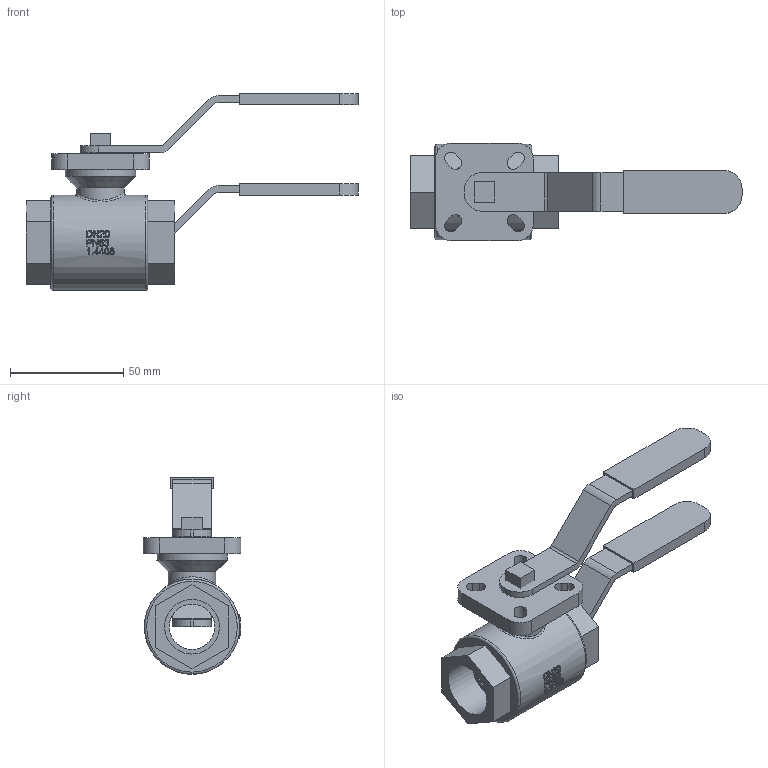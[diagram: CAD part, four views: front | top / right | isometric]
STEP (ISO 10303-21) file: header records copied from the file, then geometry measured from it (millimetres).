
FILE_DESCRIPTION( ( 'Unknown' ), '1' );
FILE_NAME( 'J:/Muud/ROOTSI BPS 3D vidinad/Kuulkraanid/Roostevaba kuulkraanid/Ball valve BPS 2411/Ball valve with hand lever BPS/STEP formaat/BPS 2411020 ball valve DN20.stp', 'Unknown', ( 'Unknown' ), ( 'Unknown' ), 'PSStep 10.1', 'Unknown', ' ' );
FILE_SCHEMA( ( 'AUTOMOTIVE_DESIGN { 1 0 10303 214 1 1 1 1 }' ) );
Length unit declared in the file: millimetre
Products named in the file (3): Assem1; BPS 2411020 ball valve DN20; Hand lever for ball valve DN8-20 BPS 2411
Bounding box: 146.3 x 43 x 86.7 mm (x, y, z)
Volume: 163565 mm3; surface area: 51892.9 mm2
Topology: 4 solids, 4 shells, 414 faces, 1060 edges, 700 vertices
Faces by surface type: plane 228, cylinder 104, bspline 76, torus 4, cone 2
Full cylindrical faces by diameter (mm): 3 x2, 20 x2, 21 x2, 24.117 x4, 31 x2, 42 x2
Entity records: 11668 total; most frequent: CARTESIAN_POINT 5749, ORIENTED_EDGE 980, DIRECTION 620, EDGE_CURVE 490, VERTEX_POINT 334, B_SPLINE_CURVE_WITH_KNOTS 280, EDGE_LOOP 262, AXIS2_PLACEMENT_3D 240
